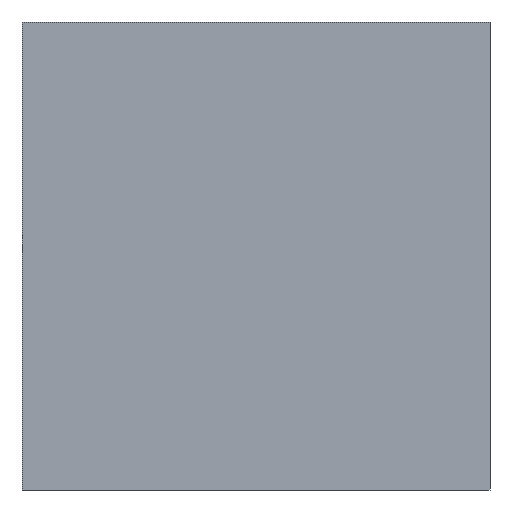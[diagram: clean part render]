
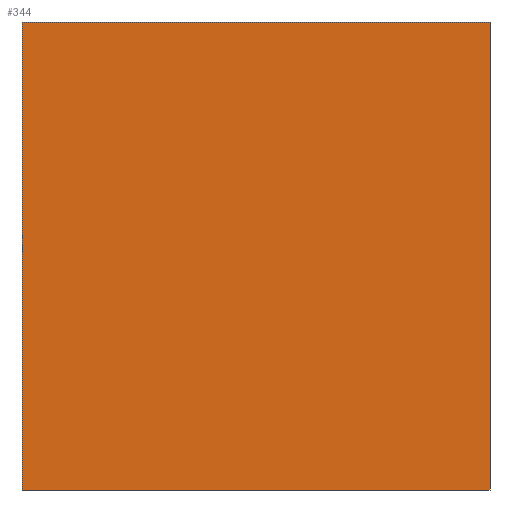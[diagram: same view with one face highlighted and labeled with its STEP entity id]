
A CAD part, front view. The second image highlights one B-rep face of the part: STEP entity #344.
In plain terms, the highlighted planar face has unit normal (0, -1, 0).
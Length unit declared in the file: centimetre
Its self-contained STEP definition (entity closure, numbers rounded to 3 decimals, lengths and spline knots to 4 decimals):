
#7 = VECTOR ( 'NONE', #390, 100. ) ;
#17 = AXIS2_PLACEMENT_3D ( 'NONE', #293, #49, #52 ) ;
#28 = VERTEX_POINT ( 'NONE', #102 ) ;
#35 = VERTEX_POINT ( 'NONE', #400 ) ;
#47 = VECTOR ( 'NONE', #294, 100. ) ;
#49 = DIRECTION ( 'NONE',  ( 0., 1., 0. ) ) ;
#52 = DIRECTION ( 'NONE',  ( 0., 0., 1. ) ) ;
#61 = LINE ( 'NONE', #184, #231 ) ;
#69 = DIRECTION ( 'NONE',  ( 0., 0., -1. ) ) ;
#83 = EDGE_CURVE ( 'NONE', #130, #35, #61, .T. ) ;
#100 = EDGE_CURVE ( 'NONE', #130, #28, #120, .T. ) ;
#102 = CARTESIAN_POINT ( 'NONE',  ( 1000., 0., 1000. ) ) ;
#120 = LINE ( 'NONE', #146, #7 ) ;
#130 = VERTEX_POINT ( 'NONE', #361 ) ;
#145 = FACE_OUTER_BOUND ( 'NONE', #311, .T. ) ;
#146 = CARTESIAN_POINT ( 'NONE',  ( 0., 0., 1000. ) ) ;
#184 = CARTESIAN_POINT ( 'NONE',  ( 0., 0., 1000. ) ) ;
#187 = LINE ( 'NONE', #336, #227 ) ;
#197 = LINE ( 'NONE', #389, #47 ) ;
#223 = ORIENTED_EDGE ( 'NONE', *, *, #83, .T. ) ;
#227 = VECTOR ( 'NONE', #69, 100. ) ;
#231 = VECTOR ( 'NONE', #271, 100. ) ;
#234 = EDGE_CURVE ( 'NONE', #28, #260, #187, .T. ) ;
#255 = ORIENTED_EDGE ( 'NONE', *, *, #100, .F. ) ;
#260 = VERTEX_POINT ( 'NONE', #405 ) ;
#264 = PLANE ( 'NONE',  #17 ) ;
#265 = ORIENTED_EDGE ( 'NONE', *, *, #234, .F. ) ;
#271 = DIRECTION ( 'NONE',  ( 0., 0., -1. ) ) ;
#293 = CARTESIAN_POINT ( 'NONE',  ( 0., 0., 1000. ) ) ;
#294 = DIRECTION ( 'NONE',  ( 1., 0., 0. ) ) ;
#311 = EDGE_LOOP ( 'NONE', ( #371, #265, #255, #223 ) ) ;
#336 = CARTESIAN_POINT ( 'NONE',  ( 1000., 0., 1000. ) ) ;
#344 = ADVANCED_FACE ( 'NONE', ( #145 ), #264, .F. ) ;
#361 = CARTESIAN_POINT ( 'NONE',  ( 0., 0., 1000. ) ) ;
#371 = ORIENTED_EDGE ( 'NONE', *, *, #383, .T. ) ;
#383 = EDGE_CURVE ( 'NONE', #35, #260, #197, .T. ) ;
#389 = CARTESIAN_POINT ( 'NONE',  ( 0., 0., 0. ) ) ;
#390 = DIRECTION ( 'NONE',  ( 1., 0., 0. ) ) ;
#400 = CARTESIAN_POINT ( 'NONE',  ( 0., 0., 0. ) ) ;
#405 = CARTESIAN_POINT ( 'NONE',  ( 1000., 0., 0. ) ) ;
